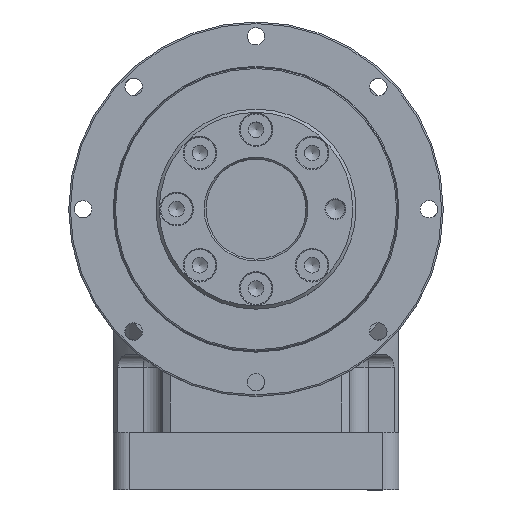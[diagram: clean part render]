
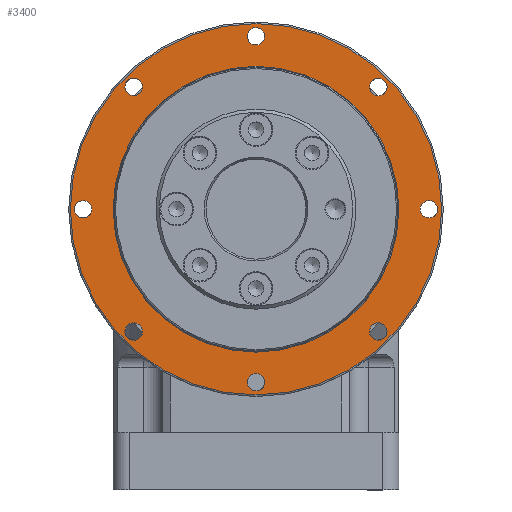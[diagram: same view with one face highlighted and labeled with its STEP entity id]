
A CAD part, top view. The second image highlights one B-rep face of the part: STEP entity #3400.
In plain terms, the highlighted planar face has unit normal (0, 0, 1).
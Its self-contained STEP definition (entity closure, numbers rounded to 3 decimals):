
#280=CARTESIAN_POINT('',(40.482,36.593,7.));
#281=VERTEX_POINT('',#280);
#282=CARTESIAN_POINT('',(38.537,38.537,7.));
#283=DIRECTION('',(0.0,0.0,-1.));
#284=DIRECTION('',(-0.707,0.707,0.0));
#285=AXIS2_PLACEMENT_3D('',#282,#283,#284);
#286=CIRCLE('',#285,2.75);
#287=EDGE_CURVE('',#281,#281,#286,.T.);
#308=CARTESIAN_POINT('',(-36.593,40.482,7.));
#309=VERTEX_POINT('',#308);
#310=CARTESIAN_POINT('',(-38.537,38.537,7.));
#311=DIRECTION('',(0.0,0.0,-1.0));
#312=DIRECTION('',(-0.707,-0.707,0.0));
#313=AXIS2_PLACEMENT_3D('',#310,#311,#312);
#314=CIRCLE('',#313,2.75);
#315=EDGE_CURVE('',#309,#309,#314,.T.);
#336=CARTESIAN_POINT('',(36.593,-40.482,7.));
#337=VERTEX_POINT('',#336);
#338=CARTESIAN_POINT('',(38.537,-38.537,7.));
#339=DIRECTION('',(0.0,0.0,-1.0));
#340=DIRECTION('',(0.707,0.707,0.0));
#341=AXIS2_PLACEMENT_3D('',#338,#339,#340);
#342=CIRCLE('',#341,2.75);
#343=EDGE_CURVE('',#337,#337,#342,.T.);
#364=CARTESIAN_POINT('',(54.5,-2.75,7.));
#365=VERTEX_POINT('',#364);
#366=CARTESIAN_POINT('',(54.5,0.,7.));
#367=DIRECTION('',(0.0,0.0,-1.0));
#368=DIRECTION('',(0.0,1.0,0.0));
#369=AXIS2_PLACEMENT_3D('',#366,#367,#368);
#370=CIRCLE('',#369,2.75);
#371=EDGE_CURVE('',#365,#365,#370,.T.);
#442=CARTESIAN_POINT('',(2.75,54.5,7.));
#443=VERTEX_POINT('',#442);
#444=CARTESIAN_POINT('',(0.0,54.5,7.));
#445=DIRECTION('',(0.0,0.0,-1.0));
#446=DIRECTION('',(-1.0,0.0,0.0));
#447=AXIS2_PLACEMENT_3D('',#444,#445,#446);
#448=CIRCLE('',#447,2.75);
#449=EDGE_CURVE('',#443,#443,#448,.T.);
#520=CARTESIAN_POINT('',(-2.75,-54.5,7.));
#521=VERTEX_POINT('',#520);
#522=CARTESIAN_POINT('',(0.,-54.5,7.));
#523=DIRECTION('',(0.0,0.0,-1.0));
#524=DIRECTION('',(1.0,0.0,0.0));
#525=AXIS2_PLACEMENT_3D('',#522,#523,#524);
#526=CIRCLE('',#525,2.75);
#527=EDGE_CURVE('',#521,#521,#526,.T.);
#666=CARTESIAN_POINT('',(-54.5,2.75,7.));
#667=VERTEX_POINT('',#666);
#668=CARTESIAN_POINT('',(-54.5,0.0,7.));
#669=DIRECTION('',(0.0,0.0,-1.0));
#670=DIRECTION('',(0.0,-1.0,0.0));
#671=AXIS2_PLACEMENT_3D('',#668,#669,#670);
#672=CIRCLE('',#671,2.75);
#673=EDGE_CURVE('',#667,#667,#672,.T.);
#3334=CARTESIAN_POINT('',(58.5,0.,7.));
#3335=VERTEX_POINT('',#3334);
#3336=CARTESIAN_POINT('',(0.0,0.0,7.));
#3337=DIRECTION('',(0.0,0.0,-1.0));
#3338=DIRECTION('',(-1.0,0.0,0.0));
#3339=AXIS2_PLACEMENT_3D('',#3336,#3337,#3338);
#3340=CIRCLE('',#3339,58.5);
#3341=EDGE_CURVE('',#3335,#3335,#3340,.T.);
#3349=CARTESIAN_POINT('',(0.0,0.0,7.));
#3350=DIRECTION('',(0.0,0.0,-1.0));
#3351=DIRECTION('',(-1.0,0.0,0.0));
#3352=AXIS2_PLACEMENT_3D('',#3349,#3350,#3351);
#3353=PLANE('',#3352);
#3354=ORIENTED_EDGE('',*,*,#3341,.F.);
#3355=EDGE_LOOP('',(#3354));
#3356=FACE_OUTER_BOUND('',#3355,.T.);
#3357=CARTESIAN_POINT('',(45.0,0.,7.));
#3358=VERTEX_POINT('',#3357);
#3359=CARTESIAN_POINT('',(0.0,0.0,7.));
#3360=DIRECTION('',(0.0,0.0,-1.0));
#3361=DIRECTION('',(-1.0,0.0,0.0));
#3362=AXIS2_PLACEMENT_3D('',#3359,#3360,#3361);
#3363=CIRCLE('',#3362,45.0);
#3364=EDGE_CURVE('',#3358,#3358,#3363,.T.);
#3365=ORIENTED_EDGE('',*,*,#3364,.T.);
#3366=EDGE_LOOP('',(#3365));
#3367=FACE_BOUND('',#3366,.T.);
#3368=ORIENTED_EDGE('',*,*,#449,.T.);
#3369=EDGE_LOOP('',(#3368));
#3370=FACE_BOUND('',#3369,.T.);
#3371=ORIENTED_EDGE('',*,*,#315,.T.);
#3372=EDGE_LOOP('',(#3371));
#3373=FACE_BOUND('',#3372,.T.);
#3374=ORIENTED_EDGE('',*,*,#673,.T.);
#3375=EDGE_LOOP('',(#3374));
#3376=FACE_BOUND('',#3375,.T.);
#3377=CARTESIAN_POINT('',(-40.482,-36.593,7.));
#3378=VERTEX_POINT('',#3377);
#3379=CARTESIAN_POINT('',(-38.537,-38.537,7.));
#3380=DIRECTION('',(0.0,0.0,-1.0));
#3381=DIRECTION('',(0.707,-0.707,0.0));
#3382=AXIS2_PLACEMENT_3D('',#3379,#3380,#3381);
#3383=CIRCLE('',#3382,2.75);
#3384=EDGE_CURVE('',#3378,#3378,#3383,.T.);
#3385=ORIENTED_EDGE('',*,*,#3384,.T.);
#3386=EDGE_LOOP('',(#3385));
#3387=FACE_BOUND('',#3386,.T.);
#3388=ORIENTED_EDGE('',*,*,#527,.T.);
#3389=EDGE_LOOP('',(#3388));
#3390=FACE_BOUND('',#3389,.T.);
#3391=ORIENTED_EDGE('',*,*,#343,.T.);
#3392=EDGE_LOOP('',(#3391));
#3393=FACE_BOUND('',#3392,.T.);
#3394=ORIENTED_EDGE('',*,*,#371,.T.);
#3395=EDGE_LOOP('',(#3394));
#3396=FACE_BOUND('',#3395,.T.);
#3397=ORIENTED_EDGE('',*,*,#287,.T.);
#3398=EDGE_LOOP('',(#3397));
#3399=FACE_BOUND('',#3398,.T.);
#3400=ADVANCED_FACE('',(#3356,#3367,#3370,#3373,#3376,#3387,#3390,#3393,#3396,#3399),#3353,.F.);
